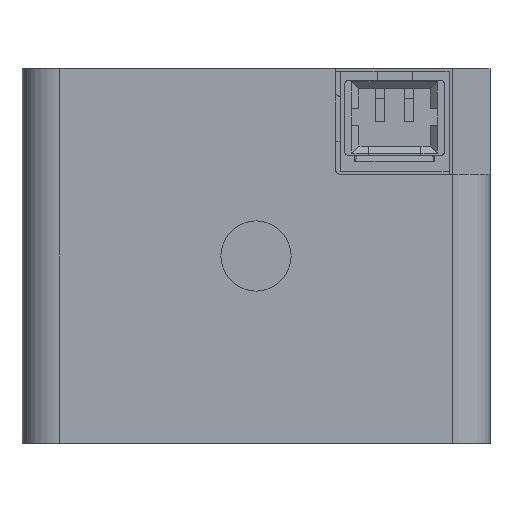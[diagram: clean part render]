
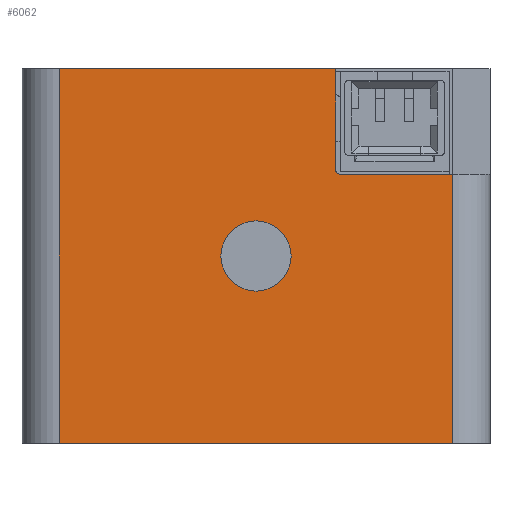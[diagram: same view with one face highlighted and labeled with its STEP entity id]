
A CAD part, front view. The second image highlights one B-rep face of the part: STEP entity #6062.
In plain terms, the highlighted planar face has unit normal (0, -1, 0).
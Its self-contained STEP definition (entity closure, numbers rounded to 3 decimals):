
#256 = DIRECTION ( 'NONE',  ( 0., -1., 0. ) ) ;
#485 = CARTESIAN_POINT ( 'NONE',  ( 3.6, -23.4, -4.5 ) ) ;
#568 = LINE ( 'NONE', #2183, #3717 ) ;
#593 = EDGE_CURVE ( 'NONE', #8053, #5279, #6702, .T. ) ;
#651 = VERTEX_POINT ( 'NONE', #6258 ) ;
#686 = VERTEX_POINT ( 'NONE', #3192 ) ;
#756 = VECTOR ( 'NONE', #5991, 1000. ) ;
#778 = ORIENTED_EDGE ( 'NONE', *, *, #6129, .F. ) ;
#797 = CARTESIAN_POINT ( 'NONE',  ( -8.4, -23.4, -16. ) ) ;
#1004 = LINE ( 'NONE', #6449, #4148 ) ;
#1008 = EDGE_CURVE ( 'NONE', #6579, #686, #2033, .T. ) ;
#1185 = DIRECTION ( 'NONE',  ( -1., 0., 0. ) ) ;
#1234 = ORIENTED_EDGE ( 'NONE', *, *, #6454, .F. ) ;
#1585 = ORIENTED_EDGE ( 'NONE', *, *, #593, .F. ) ;
#1904 = ORIENTED_EDGE ( 'NONE', *, *, #4258, .T. ) ;
#2033 = LINE ( 'NONE', #5577, #5168 ) ;
#2183 = CARTESIAN_POINT ( 'NONE',  ( 0., -23.4, -4.5 ) ) ;
#2438 = LINE ( 'NONE', #7833, #756 ) ;
#2717 = CARTESIAN_POINT ( 'NONE',  ( 3.4, -23.4, -4.3 ) ) ;
#2744 = CARTESIAN_POINT ( 'NONE',  ( 0., -23.4, -9.5 ) ) ;
#2815 = DIRECTION ( 'NONE',  ( 1., 0., 0. ) ) ;
#2832 = FACE_OUTER_BOUND ( 'NONE', #3938, .T. ) ;
#2970 = DIRECTION ( 'NONE',  ( 0., -1., 0. ) ) ;
#3192 = CARTESIAN_POINT ( 'NONE',  ( -8.4, -23.4, 0. ) ) ;
#3348 = LINE ( 'NONE', #7231, #8117 ) ;
#3350 = AXIS2_PLACEMENT_3D ( 'NONE', #4035, #256, #4654 ) ;
#3373 = DIRECTION ( 'NONE',  ( 0., 0., 1. ) ) ;
#3399 = VECTOR ( 'NONE', #3515, 1000. ) ;
#3503 = AXIS2_PLACEMENT_3D ( 'NONE', #4593, #7095, #3373 ) ;
#3515 = DIRECTION ( 'NONE',  ( 0., 0., -1. ) ) ;
#3522 = EDGE_CURVE ( 'NONE', #6579, #5260, #6503, .T. ) ;
#3544 = CARTESIAN_POINT ( 'NONE',  ( 3.4, -23.4, 0. ) ) ;
#3717 = VECTOR ( 'NONE', #2815, 1000. ) ;
#3733 = DIRECTION ( 'NONE',  ( 0., -1., 0. ) ) ;
#3937 = ORIENTED_EDGE ( 'NONE', *, *, #6534, .T. ) ;
#3938 = EDGE_LOOP ( 'NONE', ( #6243, #4360, #3937, #5870, #1904, #778, #1234 ) ) ;
#3988 = DIRECTION ( 'NONE',  ( 0., 0., 1. ) ) ;
#4035 = CARTESIAN_POINT ( 'NONE',  ( 3.6, -23.4, -4.3 ) ) ;
#4112 = CIRCLE ( 'NONE', #5697, 1.5 ) ;
#4148 = VECTOR ( 'NONE', #3988, 1000. ) ;
#4258 = EDGE_CURVE ( 'NONE', #651, #5884, #1004, .T. ) ;
#4321 = CARTESIAN_POINT ( 'NONE',  ( 0., -23.4, -6.5 ) ) ;
#4360 = ORIENTED_EDGE ( 'NONE', *, *, #1008, .T. ) ;
#4593 = CARTESIAN_POINT ( 'NONE',  ( -8.4, -23.4, -16. ) ) ;
#4654 = DIRECTION ( 'NONE',  ( 0., 0., 1. ) ) ;
#5140 = ORIENTED_EDGE ( 'NONE', *, *, #5726, .F. ) ;
#5168 = VECTOR ( 'NONE', #1185, 1000. ) ;
#5260 = VERTEX_POINT ( 'NONE', #2717 ) ;
#5279 = VERTEX_POINT ( 'NONE', #2744 ) ;
#5411 = EDGE_CURVE ( 'NONE', #6353, #651, #3348, .T. ) ;
#5577 = CARTESIAN_POINT ( 'NONE',  ( 0., -23.4, 0. ) ) ;
#5697 = AXIS2_PLACEMENT_3D ( 'NONE', #6690, #2970, #7315 ) ;
#5726 = EDGE_CURVE ( 'NONE', #5279, #8053, #4112, .T. ) ;
#5870 = ORIENTED_EDGE ( 'NONE', *, *, #5411, .T. ) ;
#5884 = VERTEX_POINT ( 'NONE', #7456 ) ;
#5991 = DIRECTION ( 'NONE',  ( 0., 0., -1. ) ) ;
#6009 = CARTESIAN_POINT ( 'NONE',  ( 3.4, -23.4, -8. ) ) ;
#6062 = ADVANCED_FACE ( 'NONE', ( #7605, #2832 ), #6460, .F. ) ;
#6129 = EDGE_CURVE ( 'NONE', #7036, #5884, #568, .T. ) ;
#6243 = ORIENTED_EDGE ( 'NONE', *, *, #3522, .F. ) ;
#6245 = AXIS2_PLACEMENT_3D ( 'NONE', #7460, #3733, #8086 ) ;
#6258 = CARTESIAN_POINT ( 'NONE',  ( 8.4, -23.4, -16. ) ) ;
#6353 = VERTEX_POINT ( 'NONE', #797 ) ;
#6449 = CARTESIAN_POINT ( 'NONE',  ( 8.4, -23.4, -10.25 ) ) ;
#6454 = EDGE_CURVE ( 'NONE', #5260, #7036, #7989, .T. ) ;
#6460 = PLANE ( 'NONE',  #3503 ) ;
#6503 = LINE ( 'NONE', #6009, #3399 ) ;
#6534 = EDGE_CURVE ( 'NONE', #686, #6353, #2438, .T. ) ;
#6579 = VERTEX_POINT ( 'NONE', #3544 ) ;
#6690 = CARTESIAN_POINT ( 'NONE',  ( 0., -23.4, -8. ) ) ;
#6702 = CIRCLE ( 'NONE', #6245, 1.5 ) ;
#6860 = EDGE_LOOP ( 'NONE', ( #1585, #5140 ) ) ;
#7036 = VERTEX_POINT ( 'NONE', #485 ) ;
#7095 = DIRECTION ( 'NONE',  ( 0., 1., 0. ) ) ;
#7231 = CARTESIAN_POINT ( 'NONE',  ( 0., -23.4, -16. ) ) ;
#7315 = DIRECTION ( 'NONE',  ( 0., 0., 1. ) ) ;
#7456 = CARTESIAN_POINT ( 'NONE',  ( 8.4, -23.4, -4.5 ) ) ;
#7460 = CARTESIAN_POINT ( 'NONE',  ( 0., -23.4, -8. ) ) ;
#7605 = FACE_BOUND ( 'NONE', #6860, .T. ) ;
#7833 = CARTESIAN_POINT ( 'NONE',  ( -8.4, -23.4, -8. ) ) ;
#7854 = DIRECTION ( 'NONE',  ( 1., 0., 0. ) ) ;
#7989 = CIRCLE ( 'NONE', #3350, 0.2 ) ;
#8053 = VERTEX_POINT ( 'NONE', #4321 ) ;
#8086 = DIRECTION ( 'NONE',  ( 0., 0., 1. ) ) ;
#8117 = VECTOR ( 'NONE', #7854, 1000. ) ;
